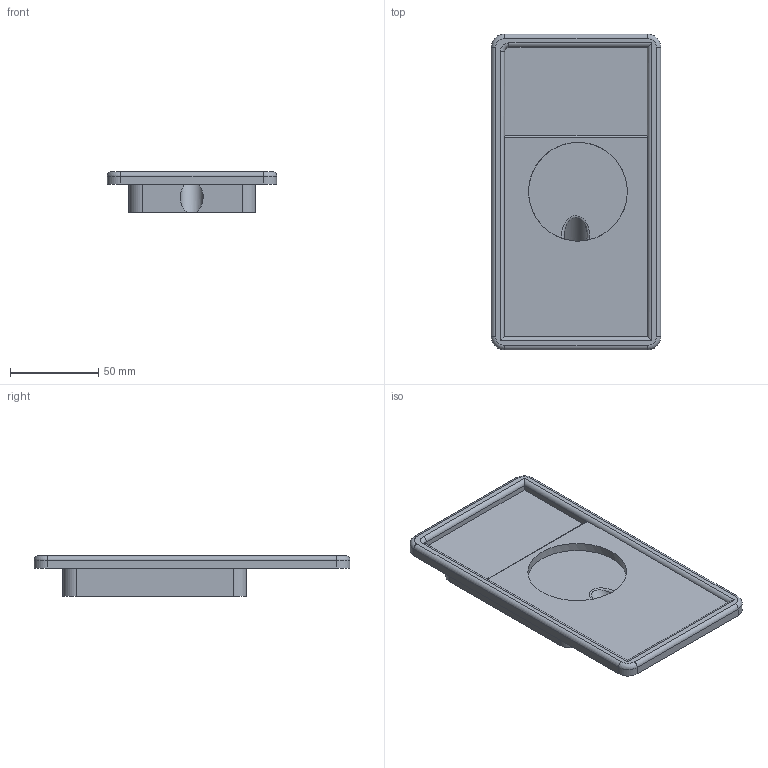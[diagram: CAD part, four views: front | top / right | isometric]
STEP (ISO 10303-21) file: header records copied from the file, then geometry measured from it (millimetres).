
FILE_DESCRIPTION(/* description */ (''),/* implementation_level */ '2;1');
FILE_NAME(/* name */ 'BMW E46 Wireless Charger.step',/* time_stamp */ '2023-07-29T11:58:56+02:00',/* author */ (''),/* organization */ (''),/* preprocessor_version */ 'ST-DEVELOPER v19.2',/* originating_system */ 'Autodesk Translation Framework v12.6.0.85',/* authorisation */ '');
FILE_SCHEMA (('AUTOMOTIVE_DESIGN { 1 0 10303 214 3 1 1 }'));
Length unit declared in the file: millimetre
Products named in the file (1): Wireless Charger V3
Bounding box: 96 x 179 x 23 mm (x, y, z)
Volume: 182620.2 mm3; surface area: 45215.4 mm2
Topology: 1 solids, 1 shells, 46 faces, 122 edges, 79 vertices
Faces by surface type: cylinder 20, plane 19, torus 5, bspline 2
Full cylindrical faces by diameter (mm): 13 x1
Entity records: 1723 total; most frequent: CARTESIAN_POINT 530, DIRECTION 246, ORIENTED_EDGE 244, EDGE_CURVE 122, AXIS2_PLACEMENT_3D 93, VERTEX_POINT 79, LINE 60, VECTOR 60
